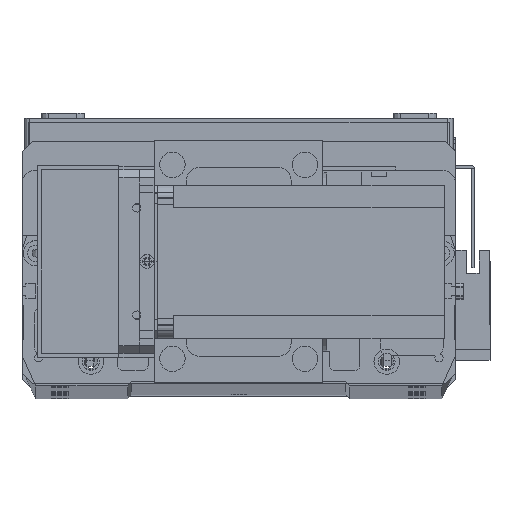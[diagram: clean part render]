
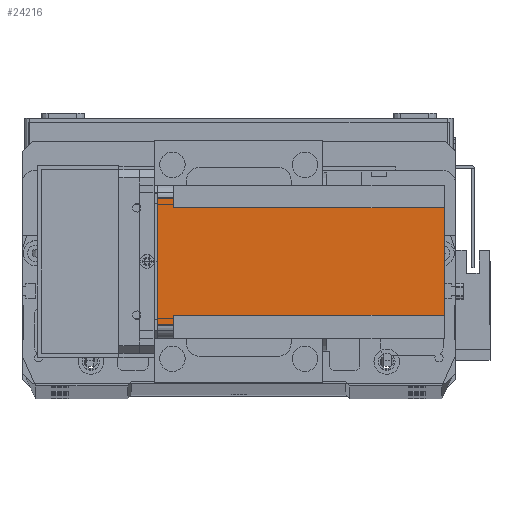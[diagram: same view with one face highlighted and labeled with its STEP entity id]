
A CAD part, top view. The second image highlights one B-rep face of the part: STEP entity #24216.
In plain terms, the highlighted planar face has unit normal (0, 0, 1) as drawn and (-1, 0, 0) by its records, which use the part's own axes.
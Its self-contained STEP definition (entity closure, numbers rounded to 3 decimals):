
#35 = EDGE_CURVE ( 'NONE', #5566, #32082, #33808, .T. ) ;
#230 = VERTEX_POINT ( 'NONE', #2275 ) ;
#544 = VERTEX_POINT ( 'NONE', #33880 ) ;
#567 = VERTEX_POINT ( 'NONE', #31192 ) ;
#1410 = VECTOR ( 'NONE', #11156, 1000. ) ;
#2068 = CARTESIAN_POINT ( 'NONE',  ( 0., 51., -112.5 ) ) ;
#2087 = VECTOR ( 'NONE', #26440, 1000. ) ;
#2275 = CARTESIAN_POINT ( 'NONE',  ( 0., 55., -6.5 ) ) ;
#3515 = ORIENTED_EDGE ( 'NONE', *, *, #18938, .F. ) ;
#4052 = CARTESIAN_POINT ( 'NONE',  ( 0., 0., -112.5 ) ) ;
#4718 = DIRECTION ( 'NONE',  ( 0., 0., 1. ) ) ;
#5566 = VERTEX_POINT ( 'NONE', #7869 ) ;
#6238 = ORIENTED_EDGE ( 'NONE', *, *, #18908, .F. ) ;
#6712 = DIRECTION ( 'NONE',  ( 0., -1., 0. ) ) ;
#7869 = CARTESIAN_POINT ( 'NONE',  ( 0., 5., -6.5 ) ) ;
#7884 = CARTESIAN_POINT ( 'NONE',  ( 0., 55., -112.5 ) ) ;
#8064 = VECTOR ( 'NONE', #21588, 1000. ) ;
#8508 = CARTESIAN_POINT ( 'NONE',  ( 0., 5., -112.5 ) ) ;
#9315 = CARTESIAN_POINT ( 'NONE',  ( 0., 0., -112.5 ) ) ;
#9925 = VERTEX_POINT ( 'NONE', #10976 ) ;
#10196 = ORIENTED_EDGE ( 'NONE', *, *, #17062, .T. ) ;
#10976 = CARTESIAN_POINT ( 'NONE',  ( 0., 51., -6.5 ) ) ;
#11156 = DIRECTION ( 'NONE',  ( 0., 0., 1. ) ) ;
#11276 = VECTOR ( 'NONE', #30668, 1000. ) ;
#12090 = LINE ( 'NONE', #27993, #11276 ) ;
#12551 = VECTOR ( 'NONE', #13727, 1000. ) ;
#13727 = DIRECTION ( 'NONE',  ( 0., 1., 0. ) ) ;
#14628 = DIRECTION ( 'NONE',  ( -1., 0., 0. ) ) ;
#14928 = ORIENTED_EDGE ( 'NONE', *, *, #35, .F. ) ;
#15099 = LINE ( 'NONE', #24263, #8064 ) ;
#16901 = VECTOR ( 'NONE', #6712, 1000. ) ;
#17062 = EDGE_CURVE ( 'NONE', #27962, #544, #23955, .T. ) ;
#17299 = EDGE_LOOP ( 'NONE', ( #14928, #32208, #6238, #32298, #27753, #30212, #10196, #3515 ) ) ;
#18908 = EDGE_CURVE ( 'NONE', #26905, #567, #15099, .T. ) ;
#18938 = EDGE_CURVE ( 'NONE', #32082, #544, #22153, .T. ) ;
#21588 = DIRECTION ( 'NONE',  ( 0., -1., 0. ) ) ;
#21961 = CARTESIAN_POINT ( 'NONE',  ( 0., 0., -6.5 ) ) ;
#22153 = LINE ( 'NONE', #29742, #27603 ) ;
#22527 = LINE ( 'NONE', #8508, #1410 ) ;
#23394 = CARTESIAN_POINT ( 'NONE',  ( 0., 9., -6.5 ) ) ;
#23451 = EDGE_CURVE ( 'NONE', #27962, #9925, #27304, .T. ) ;
#23955 = LINE ( 'NONE', #4052, #16901 ) ;
#24216 = ADVANCED_FACE ( 'NONE', ( #28490 ), #30561, .T. ) ;
#24263 = CARTESIAN_POINT ( 'NONE',  ( 0., 0., 0. ) ) ;
#26246 = CARTESIAN_POINT ( 'NONE',  ( 0., 55., 0. ) ) ;
#26440 = DIRECTION ( 'NONE',  ( 0., 0., -1. ) ) ;
#26511 = AXIS2_PLACEMENT_3D ( 'NONE', #9315, #14628, #33267 ) ;
#26905 = VERTEX_POINT ( 'NONE', #26246 ) ;
#27077 = DIRECTION ( 'NONE',  ( 0., 0., -1. ) ) ;
#27304 = LINE ( 'NONE', #2068, #28134 ) ;
#27433 = EDGE_CURVE ( 'NONE', #26905, #230, #30318, .T. ) ;
#27603 = VECTOR ( 'NONE', #27077, 1000. ) ;
#27753 = ORIENTED_EDGE ( 'NONE', *, *, #33494, .F. ) ;
#27962 = VERTEX_POINT ( 'NONE', #34011 ) ;
#27993 = CARTESIAN_POINT ( 'NONE',  ( 0., 60., -6.5 ) ) ;
#28134 = VECTOR ( 'NONE', #4718, 1000. ) ;
#28490 = FACE_OUTER_BOUND ( 'NONE', #17299, .T. ) ;
#29742 = CARTESIAN_POINT ( 'NONE',  ( 0., 9., -112.5 ) ) ;
#30212 = ORIENTED_EDGE ( 'NONE', *, *, #23451, .F. ) ;
#30318 = LINE ( 'NONE', #7884, #2087 ) ;
#30561 = PLANE ( 'NONE',  #26511 ) ;
#30668 = DIRECTION ( 'NONE',  ( 0., 1., 0. ) ) ;
#31192 = CARTESIAN_POINT ( 'NONE',  ( 0., 5., 0. ) ) ;
#31666 = EDGE_CURVE ( 'NONE', #5566, #567, #22527, .T. ) ;
#32082 = VERTEX_POINT ( 'NONE', #23394 ) ;
#32208 = ORIENTED_EDGE ( 'NONE', *, *, #31666, .T. ) ;
#32298 = ORIENTED_EDGE ( 'NONE', *, *, #27433, .T. ) ;
#33267 = DIRECTION ( 'NONE',  ( 0., -1., 0. ) ) ;
#33494 = EDGE_CURVE ( 'NONE', #9925, #230, #12090, .T. ) ;
#33808 = LINE ( 'NONE', #21961, #12551 ) ;
#33880 = CARTESIAN_POINT ( 'NONE',  ( 0., 9., -112.5 ) ) ;
#34011 = CARTESIAN_POINT ( 'NONE',  ( 0., 51., -112.5 ) ) ;
